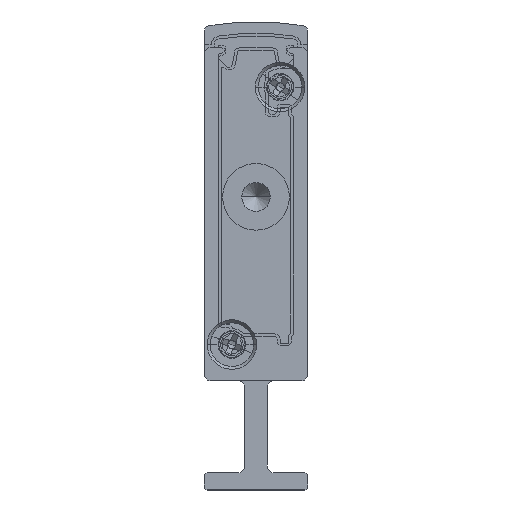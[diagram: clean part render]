
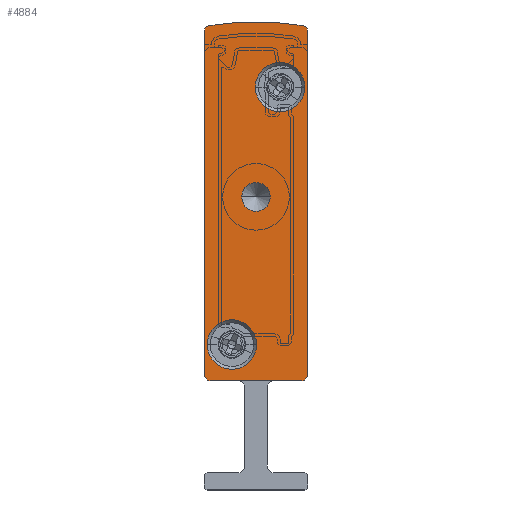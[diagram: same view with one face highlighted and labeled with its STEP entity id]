
A CAD part, front view. The second image highlights one B-rep face of the part: STEP entity #4884.
In plain terms, the highlighted planar face has unit normal (0, -1, 0).
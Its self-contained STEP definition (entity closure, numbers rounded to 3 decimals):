
#192 = VERTEX_POINT ( 'NONE', #31801 ) ;
#345 = EDGE_CURVE ( 'NONE', #23367, #192, #24052, .T. ) ;
#397 = AXIS2_PLACEMENT_3D ( 'NONE', #20573, #12743, #18573 ) ;
#504 = EDGE_CURVE ( 'NONE', #10780, #14312, #18028, .T. ) ;
#756 = EDGE_CURVE ( 'NONE', #192, #9760, #32440, .T. ) ;
#822 = CARTESIAN_POINT ( 'NONE',  ( 2.4, -2.5, 12.65 ) ) ;
#1357 = DIRECTION ( 'NONE',  ( -1., 0., 0. ) ) ;
#1469 = AXIS2_PLACEMENT_3D ( 'NONE', #13269, #31289, #28444 ) ;
#1507 = DIRECTION ( 'NONE',  ( -1., 0., 0. ) ) ;
#2011 = AXIS2_PLACEMENT_3D ( 'NONE', #822, #21641, #16223 ) ;
#2167 = DIRECTION ( 'NONE',  ( 0., 1., 0. ) ) ;
#2359 = CIRCLE ( 'NONE', #6096, 1.25 ) ;
#2808 = AXIS2_PLACEMENT_3D ( 'NONE', #9056, #22170, #11856 ) ;
#2946 = VERTEX_POINT ( 'NONE', #31938 ) ;
#3008 = PLANE ( 'NONE',  #17795 ) ;
#3359 = EDGE_LOOP ( 'NONE', ( #18085, #27876 ) ) ;
#3490 = VERTEX_POINT ( 'NONE', #26248 ) ;
#3524 = ORIENTED_EDGE ( 'NONE', *, *, #504, .T. ) ;
#3754 = CARTESIAN_POINT ( 'NONE',  ( 4.5, -2.5, 25.5 ) ) ;
#3875 = VERTEX_POINT ( 'NONE', #26693 ) ;
#4079 = DIRECTION ( 'NONE',  ( 0., 1., 0. ) ) ;
#4576 = CARTESIAN_POINT ( 'NONE',  ( 3.25, -2.5, 25.5 ) ) ;
#4884 = ADVANCED_FACE ( 'NONE', ( #23715, #11711, #4931, #30598 ), #3008, .F. ) ;
#4931 = FACE_OUTER_BOUND ( 'NONE', #28416, .T. ) ;
#5037 = AXIS2_PLACEMENT_3D ( 'NONE', #19157, #16678, #31767 ) ;
#5155 = LINE ( 'NONE', #28133, #19547 ) ;
#5553 = AXIS2_PLACEMENT_3D ( 'NONE', #26804, #11709, #1507 ) ;
#5591 = ORIENTED_EDGE ( 'NONE', *, *, #345, .F. ) ;
#5725 = CARTESIAN_POINT ( 'NONE',  ( 0.5, -2.5, 10. ) ) ;
#5924 = CIRCLE ( 'NONE', #11799, 0.5 ) ;
#6096 = AXIS2_PLACEMENT_3D ( 'NONE', #3754, #26564, #21750 ) ;
#7654 = CARTESIAN_POINT ( 'NONE',  ( 4.5, -2.5, 25.5 ) ) ;
#7727 = DIRECTION ( 'NONE',  ( 0., 0., -1. ) ) ;
#8502 = VERTEX_POINT ( 'NONE', #30980 ) ;
#8547 = ORIENTED_EDGE ( 'NONE', *, *, #20239, .F. ) ;
#9056 = CARTESIAN_POINT ( 'NONE',  ( 6.6, -2.5, 35.05 ) ) ;
#9240 = EDGE_CURVE ( 'NONE', #3490, #3875, #26115, .T. ) ;
#9543 = VERTEX_POINT ( 'NONE', #11197 ) ;
#9760 = VERTEX_POINT ( 'NONE', #22040 ) ;
#9795 = ORIENTED_EDGE ( 'NONE', *, *, #756, .F. ) ;
#9895 = ORIENTED_EDGE ( 'NONE', *, *, #9240, .F. ) ;
#10326 = VERTEX_POINT ( 'NONE', #28838 ) ;
#10359 = VERTEX_POINT ( 'NONE', #10902 ) ;
#10780 = VERTEX_POINT ( 'NONE', #4576 ) ;
#10902 = CARTESIAN_POINT ( 'NONE',  ( 8.5, -2.5, 9.5 ) ) ;
#11197 = CARTESIAN_POINT ( 'NONE',  ( 4.45, -2.5, 35.05 ) ) ;
#11587 = CIRCLE ( 'NONE', #2808, 2.15 ) ;
#11709 = DIRECTION ( 'NONE',  ( 0., 1., 0. ) ) ;
#11711 = FACE_BOUND ( 'NONE', #3359, .T. ) ;
#11799 = AXIS2_PLACEMENT_3D ( 'NONE', #26391, #15180, #15399 ) ;
#11856 = DIRECTION ( 'NONE',  ( 1., 0., 0. ) ) ;
#12743 = DIRECTION ( 'NONE',  ( 0., -1., 0. ) ) ;
#13269 = CARTESIAN_POINT ( 'NONE',  ( 6.6, -2.5, 35.05 ) ) ;
#13894 = ORIENTED_EDGE ( 'NONE', *, *, #29674, .F. ) ;
#14296 = CARTESIAN_POINT ( 'NONE',  ( 0.5, -2.5, 39.902 ) ) ;
#14311 = AXIS2_PLACEMENT_3D ( 'NONE', #7654, #2167, #17945 ) ;
#14312 = VERTEX_POINT ( 'NONE', #24138 ) ;
#14484 = VERTEX_POINT ( 'NONE', #17630 ) ;
#15180 = DIRECTION ( 'NONE',  ( 0., 1., 0. ) ) ;
#15399 = DIRECTION ( 'NONE',  ( -1., 0., 0. ) ) ;
#15887 = CIRCLE ( 'NONE', #397, 2.15 ) ;
#16220 = EDGE_CURVE ( 'NONE', #9760, #3490, #33317, .T. ) ;
#16223 = DIRECTION ( 'NONE',  ( 1., 0., 0. ) ) ;
#16678 = DIRECTION ( 'NONE',  ( 0., 1., 0. ) ) ;
#16937 = DIRECTION ( 'NONE',  ( 0., 0., 1. ) ) ;
#17143 = AXIS2_PLACEMENT_3D ( 'NONE', #14296, #4079, #24543 ) ;
#17630 = CARTESIAN_POINT ( 'NONE',  ( 9., -2.5, 10. ) ) ;
#17779 = AXIS2_PLACEMENT_3D ( 'NONE', #5725, #21153, #20837 ) ;
#17795 = AXIS2_PLACEMENT_3D ( 'NONE', #24336, #21759, #29197 ) ;
#17945 = DIRECTION ( 'NONE',  ( -1., 0., 0. ) ) ;
#18028 = CIRCLE ( 'NONE', #14311, 1.25 ) ;
#18085 = ORIENTED_EDGE ( 'NONE', *, *, #23773, .F. ) ;
#18421 = CIRCLE ( 'NONE', #17779, 0.5 ) ;
#18573 = DIRECTION ( 'NONE',  ( 1., 0., 0. ) ) ;
#18852 = VECTOR ( 'NONE', #16937, 1000. ) ;
#19118 = ORIENTED_EDGE ( 'NONE', *, *, #29478, .F. ) ;
#19157 = CARTESIAN_POINT ( 'NONE',  ( 4.5, -2.5, 17.092 ) ) ;
#19547 = VECTOR ( 'NONE', #7727, 1000. ) ;
#19594 = CIRCLE ( 'NONE', #2011, 2.15 ) ;
#20239 = EDGE_CURVE ( 'NONE', #3875, #14484, #5155, .T. ) ;
#20349 = ORIENTED_EDGE ( 'NONE', *, *, #16220, .F. ) ;
#20573 = CARTESIAN_POINT ( 'NONE',  ( 2.4, -2.5, 12.65 ) ) ;
#20837 = DIRECTION ( 'NONE',  ( -1., 0., 0. ) ) ;
#21153 = DIRECTION ( 'NONE',  ( 0., 1., 0. ) ) ;
#21641 = DIRECTION ( 'NONE',  ( 0., -1., 0. ) ) ;
#21750 = DIRECTION ( 'NONE',  ( -1., 0., 0. ) ) ;
#21759 = DIRECTION ( 'NONE',  ( 0., 1., 0. ) ) ;
#22040 = CARTESIAN_POINT ( 'NONE',  ( 0.408, -2.5, 40.393 ) ) ;
#22056 = CARTESIAN_POINT ( 'NONE',  ( 0.5, -2.5, 9.5 ) ) ;
#22170 = DIRECTION ( 'NONE',  ( 0., -1., 0. ) ) ;
#23367 = VERTEX_POINT ( 'NONE', #31854 ) ;
#23715 = FACE_BOUND ( 'NONE', #30781, .T. ) ;
#23773 = EDGE_CURVE ( 'NONE', #10326, #31860, #19594, .T. ) ;
#23815 = EDGE_CURVE ( 'NONE', #14312, #10780, #2359, .T. ) ;
#24052 = LINE ( 'NONE', #32357, #18852 ) ;
#24138 = CARTESIAN_POINT ( 'NONE',  ( 5.75, -2.5, 25.5 ) ) ;
#24336 = CARTESIAN_POINT ( 'NONE',  ( 0.5, -2.5, 39.902 ) ) ;
#24543 = DIRECTION ( 'NONE',  ( -1., 0., 0. ) ) ;
#25667 = CARTESIAN_POINT ( 'NONE',  ( 0.25, -2.5, 12.65 ) ) ;
#25735 = EDGE_LOOP ( 'NONE', ( #3524, #30411 ) ) ;
#26115 = CIRCLE ( 'NONE', #5553, 0.5 ) ;
#26248 = CARTESIAN_POINT ( 'NONE',  ( 8.592, -2.5, 40.393 ) ) ;
#26391 = CARTESIAN_POINT ( 'NONE',  ( 8.5, -2.5, 10. ) ) ;
#26564 = DIRECTION ( 'NONE',  ( 0., 1., 0. ) ) ;
#26693 = CARTESIAN_POINT ( 'NONE',  ( 9., -2.5, 39.902 ) ) ;
#26804 = CARTESIAN_POINT ( 'NONE',  ( 8.5, -2.5, 39.902 ) ) ;
#27570 = LINE ( 'NONE', #22056, #29226 ) ;
#27876 = ORIENTED_EDGE ( 'NONE', *, *, #30004, .F. ) ;
#28133 = CARTESIAN_POINT ( 'NONE',  ( 9., -2.5, 39.902 ) ) ;
#28416 = EDGE_LOOP ( 'NONE', ( #9795, #5591, #19118, #31988, #31654, #8547, #9895, #20349 ) ) ;
#28444 = DIRECTION ( 'NONE',  ( 1., 0., 0. ) ) ;
#28838 = CARTESIAN_POINT ( 'NONE',  ( 4.55, -2.5, 12.65 ) ) ;
#29097 = EDGE_CURVE ( 'NONE', #9543, #2946, #29689, .T. ) ;
#29197 = DIRECTION ( 'NONE',  ( -1., 0., 0. ) ) ;
#29226 = VECTOR ( 'NONE', #1357, 1000. ) ;
#29478 = EDGE_CURVE ( 'NONE', #8502, #23367, #18421, .T. ) ;
#29674 = EDGE_CURVE ( 'NONE', #2946, #9543, #11587, .T. ) ;
#29689 = CIRCLE ( 'NONE', #1469, 2.15 ) ;
#29859 = EDGE_CURVE ( 'NONE', #10359, #8502, #27570, .T. ) ;
#30004 = EDGE_CURVE ( 'NONE', #31860, #10326, #15887, .T. ) ;
#30053 = EDGE_CURVE ( 'NONE', #14484, #10359, #5924, .T. ) ;
#30411 = ORIENTED_EDGE ( 'NONE', *, *, #23815, .T. ) ;
#30598 = FACE_BOUND ( 'NONE', #25735, .T. ) ;
#30601 = ORIENTED_EDGE ( 'NONE', *, *, #29097, .F. ) ;
#30781 = EDGE_LOOP ( 'NONE', ( #13894, #30601 ) ) ;
#30980 = CARTESIAN_POINT ( 'NONE',  ( 0.5, -2.5, 9.5 ) ) ;
#31289 = DIRECTION ( 'NONE',  ( 0., -1., 0. ) ) ;
#31654 = ORIENTED_EDGE ( 'NONE', *, *, #30053, .F. ) ;
#31767 = DIRECTION ( 'NONE',  ( -1., 0., 0. ) ) ;
#31801 = CARTESIAN_POINT ( 'NONE',  ( 0., -2.5, 39.902 ) ) ;
#31854 = CARTESIAN_POINT ( 'NONE',  ( 0., -2.5, 10. ) ) ;
#31860 = VERTEX_POINT ( 'NONE', #25667 ) ;
#31938 = CARTESIAN_POINT ( 'NONE',  ( 8.75, -2.5, 35.05 ) ) ;
#31988 = ORIENTED_EDGE ( 'NONE', *, *, #29859, .F. ) ;
#32357 = CARTESIAN_POINT ( 'NONE',  ( 0., -2.5, 39.902 ) ) ;
#32440 = CIRCLE ( 'NONE', #17143, 0.5 ) ;
#33317 = CIRCLE ( 'NONE', #5037, 23.658 ) ;
